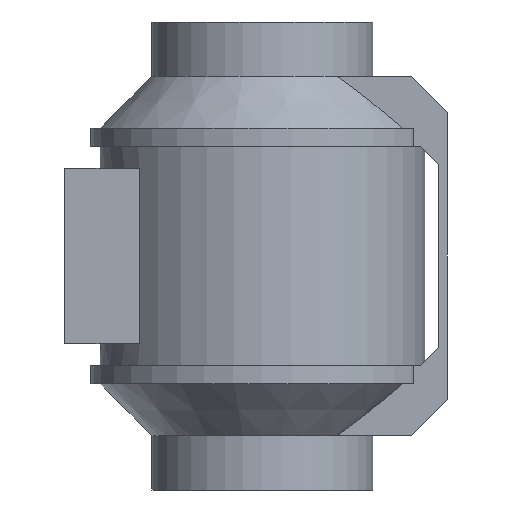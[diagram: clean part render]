
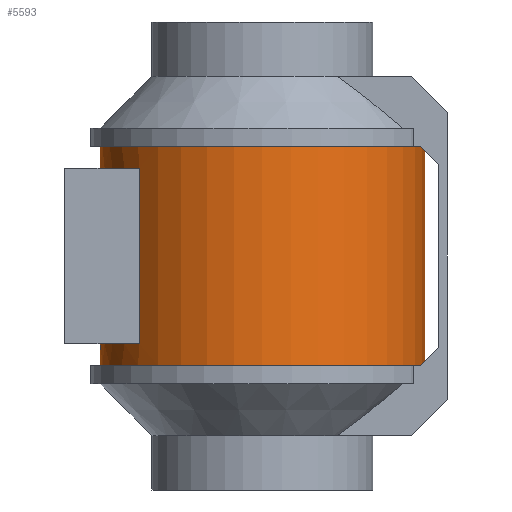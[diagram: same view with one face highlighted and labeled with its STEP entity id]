
A CAD part, front view. The second image highlights one B-rep face of the part: STEP entity #5593.
In plain terms, the highlighted cylindrical face has radius 89.5 mm (diameter 179 mm), a full revolution.
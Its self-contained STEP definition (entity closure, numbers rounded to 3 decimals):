
#186=FACE_BOUND('',#1065,.T.);
#244=CYLINDRICAL_SURFACE('',#5946,89.5);
#552=CIRCLE('',#5939,89.5);
#553=CIRCLE('',#5941,89.5);
#556=CIRCLE('',#5947,89.5);
#557=CIRCLE('',#5948,89.5);
#558=CIRCLE('',#5949,89.5);
#559=CIRCLE('',#5950,89.5);
#737=FACE_OUTER_BOUND('',#1064,.T.);
#1064=EDGE_LOOP('',(#3792,#3793,#3794,#3795,#3796,#3797));
#1065=EDGE_LOOP('',(#3798,#3799,#3800,#3801));
#1442=LINE('',#7831,#1951);
#1446=LINE('',#7840,#1955);
#1453=LINE('',#7865,#1962);
#1951=VECTOR('',#6400,10.);
#1955=VECTOR('',#6406,10.);
#1962=VECTOR('',#6435,89.5);
#2460=VERTEX_POINT('',#7829);
#2461=VERTEX_POINT('',#7830);
#2464=VERTEX_POINT('',#7838);
#2465=VERTEX_POINT('',#7839);
#2470=VERTEX_POINT('',#7860);
#2471=VERTEX_POINT('',#7861);
#2472=VERTEX_POINT('',#7864);
#2473=VERTEX_POINT('',#7866);
#2977=EDGE_CURVE('',#2460,#2461,#1442,.T.);
#2981=EDGE_CURVE('',#2464,#2465,#1446,.T.);
#2985=EDGE_CURVE('',#2461,#2464,#552,.T.);
#2987=EDGE_CURVE('',#2465,#2460,#553,.T.);
#2992=EDGE_CURVE('',#2470,#2471,#556,.T.);
#2993=EDGE_CURVE('',#2471,#2470,#557,.T.);
#2994=EDGE_CURVE('',#2471,#2472,#1453,.T.);
#2995=EDGE_CURVE('',#2472,#2473,#558,.T.);
#2996=EDGE_CURVE('',#2473,#2472,#559,.T.);
#3792=ORIENTED_EDGE('',*,*,#2992,.F.);
#3793=ORIENTED_EDGE('',*,*,#2993,.F.);
#3794=ORIENTED_EDGE('',*,*,#2994,.T.);
#3795=ORIENTED_EDGE('',*,*,#2995,.T.);
#3796=ORIENTED_EDGE('',*,*,#2996,.T.);
#3797=ORIENTED_EDGE('',*,*,#2994,.F.);
#3798=ORIENTED_EDGE('',*,*,#2981,.T.);
#3799=ORIENTED_EDGE('',*,*,#2987,.T.);
#3800=ORIENTED_EDGE('',*,*,#2977,.T.);
#3801=ORIENTED_EDGE('',*,*,#2985,.T.);
#5593=ADVANCED_FACE('',(#737,#186),#244,.T.);
#5939=AXIS2_PLACEMENT_3D('',#7847,#6412,#6413);
#5941=AXIS2_PLACEMENT_3D('',#7850,#6417,#6418);
#5946=AXIS2_PLACEMENT_3D('',#7859,#6429,#6430);
#5947=AXIS2_PLACEMENT_3D('',#7862,#6431,#6432);
#5948=AXIS2_PLACEMENT_3D('',#7863,#6433,#6434);
#5949=AXIS2_PLACEMENT_3D('',#7867,#6436,#6437);
#5950=AXIS2_PLACEMENT_3D('',#7868,#6438,#6439);
#6400=DIRECTION('',(0.,0.,-1.));
#6406=DIRECTION('',(0.,0.,1.));
#6412=DIRECTION('center_axis',(0.,0.,-1.));
#6413=DIRECTION('ref_axis',(-1.,0.,0.));
#6417=DIRECTION('center_axis',(0.,0.,1.));
#6418=DIRECTION('ref_axis',(-1.,0.,0.));
#6429=DIRECTION('center_axis',(0.,0.,-1.));
#6430=DIRECTION('ref_axis',(-1.,0.,0.));
#6431=DIRECTION('center_axis',(0.,0.,-1.));
#6432=DIRECTION('ref_axis',(1.,0.,0.));
#6433=DIRECTION('center_axis',(0.,0.,-1.));
#6434=DIRECTION('ref_axis',(1.,0.,0.));
#6435=DIRECTION('',(0.,0.,1.));
#6436=DIRECTION('center_axis',(0.,0.,-1.));
#6437=DIRECTION('ref_axis',(1.,0.,0.));
#6438=DIRECTION('center_axis',(0.,0.,-1.));
#6439=DIRECTION('ref_axis',(1.,0.,0.));
#7829=CARTESIAN_POINT('',(-67.735,-58.5,48.5));
#7830=CARTESIAN_POINT('',(-67.735,-58.5,-48.5));
#7831=CARTESIAN_POINT('',(-67.735,-58.5,0.));
#7838=CARTESIAN_POINT('',(-67.735,58.5,-48.5));
#7839=CARTESIAN_POINT('',(-67.735,58.5,48.5));
#7840=CARTESIAN_POINT('',(-67.735,58.5,0.));
#7847=CARTESIAN_POINT('Origin',(0.,0.,-48.5));
#7850=CARTESIAN_POINT('Origin',(0.,0.,48.5));
#7859=CARTESIAN_POINT('Origin',(0.,0.,0.));
#7860=CARTESIAN_POINT('',(-89.5,0.,-60.5));
#7861=CARTESIAN_POINT('',(89.5,0.,-60.5));
#7862=CARTESIAN_POINT('Origin',(0.,0.,-60.5));
#7863=CARTESIAN_POINT('Origin',(0.,0.,-60.5));
#7864=CARTESIAN_POINT('',(89.5,0.,60.5));
#7865=CARTESIAN_POINT('',(89.5,0.,0.));
#7866=CARTESIAN_POINT('',(-89.5,0.,60.5));
#7867=CARTESIAN_POINT('Origin',(0.,0.,60.5));
#7868=CARTESIAN_POINT('Origin',(0.,0.,60.5));
